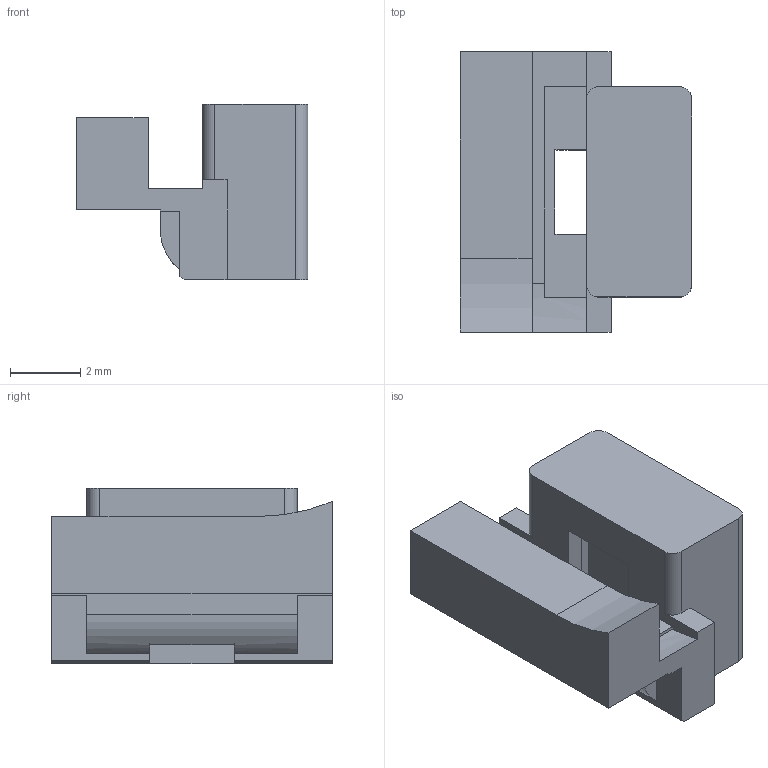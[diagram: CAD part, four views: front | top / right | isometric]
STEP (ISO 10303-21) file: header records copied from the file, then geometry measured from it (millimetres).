
FILE_DESCRIPTION(('Open CASCADE Model'),'2;1');
FILE_NAME('Open CASCADE Shape Model','2026-09-09T11:51:02',('Author'),( 'Open CASCADE'),'Open CASCADE STEP processor 7.7','Open CASCADE 7.7' ,'Unknown');
FILE_SCHEMA(('AUTOMOTIVE_DESIGN { 1 0 10303 214 1 1 1 1 }'));
Length unit declared in the file: millimetre
Products named in the file (1): Open CASCADE STEP translator 7.7 24
Bounding box: 6.6 x 8 x 5 mm (x, y, z)
Volume: 125.1 mm3; surface area: 271.8 mm2
Topology: 1 solids, 1 shells, 46 faces, 138 edges, 92 vertices
Faces by surface type: plane 37, cylinder 9
Entity records: 3307 total; most frequent: CARTESIAN_POINT 633, DIRECTION 469, LINE 316, VECTOR 316, ORIENTED_EDGE 276, PCURVE 276, DEFINITIONAL_REPRESENTATION 276, EDGE_CURVE 138
